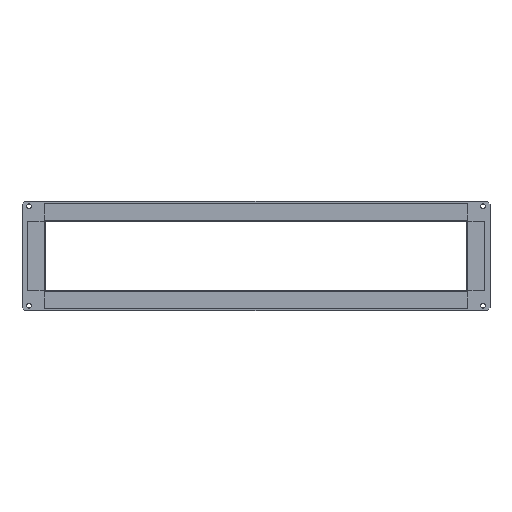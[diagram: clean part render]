
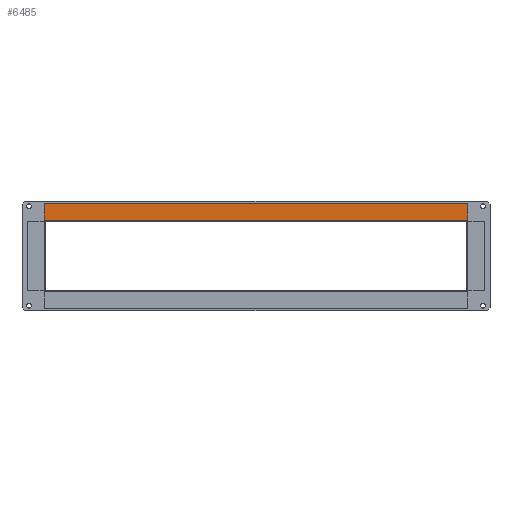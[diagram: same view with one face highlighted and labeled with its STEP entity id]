
A CAD part, top view. The second image highlights one B-rep face of the part: STEP entity #6485.
In plain terms, the highlighted planar face has unit normal (0, 0, 1) as drawn and (0, 0, -1) by its records, which use the part's own axes.
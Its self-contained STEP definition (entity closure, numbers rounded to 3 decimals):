
#106 = CARTESIAN_POINT ( 'NONE',  ( -300.8, 1.8, 0. ) ) ;
#257 = FACE_OUTER_BOUND ( 'NONE', #2905, .T. ) ;
#365 = CARTESIAN_POINT ( 'NONE',  ( 300.8, 1.8, 0. ) ) ;
#562 = ORIENTED_EDGE ( 'NONE', *, *, #1754, .F. ) ;
#619 = DIRECTION ( 'NONE',  ( -1., 0., 0. ) ) ;
#668 = PLANE ( 'NONE',  #6307 ) ;
#706 = CARTESIAN_POINT ( 'NONE',  ( 300.8, 25., 0. ) ) ;
#1055 = EDGE_CURVE ( 'NONE', #4933, #2528, #5324, .T. ) ;
#1172 = DIRECTION ( 'NONE',  ( 0., 0., -1. ) ) ;
#1726 = ORIENTED_EDGE ( 'NONE', *, *, #1055, .T. ) ;
#1754 = EDGE_CURVE ( 'NONE', #4355, #2632, #3636, .T. ) ;
#2023 = CARTESIAN_POINT ( 'NONE',  ( -300.8, 0., 0. ) ) ;
#2528 = VERTEX_POINT ( 'NONE', #106 ) ;
#2542 = DIRECTION ( 'NONE',  ( 0., -1., 0. ) ) ;
#2577 = ORIENTED_EDGE ( 'NONE', *, *, #4478, .F. ) ;
#2632 = VERTEX_POINT ( 'NONE', #6167 ) ;
#2742 = VECTOR ( 'NONE', #2843, 1000. ) ;
#2843 = DIRECTION ( 'NONE',  ( -1., 0., 0. ) ) ;
#2905 = EDGE_LOOP ( 'NONE', ( #2577, #562, #4414, #1726 ) ) ;
#2946 = CARTESIAN_POINT ( 'NONE',  ( 300.8, 0., 0. ) ) ;
#3021 = VECTOR ( 'NONE', #3470, 1000. ) ;
#3193 = LINE ( 'NONE', #2946, #3021 ) ;
#3395 = CARTESIAN_POINT ( 'NONE',  ( 300.8, 1.8, 0. ) ) ;
#3470 = DIRECTION ( 'NONE',  ( 0., -1., 0. ) ) ;
#3636 = LINE ( 'NONE', #706, #6350 ) ;
#3706 = EDGE_CURVE ( 'NONE', #4355, #4933, #3193, .T. ) ;
#4355 = VERTEX_POINT ( 'NONE', #5494 ) ;
#4414 = ORIENTED_EDGE ( 'NONE', *, *, #3706, .T. ) ;
#4478 = EDGE_CURVE ( 'NONE', #2632, #2528, #4810, .T. ) ;
#4774 = DIRECTION ( 'NONE',  ( -1., 0., 0. ) ) ;
#4810 = LINE ( 'NONE', #2023, #4971 ) ;
#4933 = VERTEX_POINT ( 'NONE', #365 ) ;
#4971 = VECTOR ( 'NONE', #2542, 1000. ) ;
#5324 = LINE ( 'NONE', #3395, #2742 ) ;
#5494 = CARTESIAN_POINT ( 'NONE',  ( 300.8, 25., 0. ) ) ;
#6167 = CARTESIAN_POINT ( 'NONE',  ( -300.8, 25., 0. ) ) ;
#6249 = CARTESIAN_POINT ( 'NONE',  ( 300.8, 0., 0. ) ) ;
#6307 = AXIS2_PLACEMENT_3D ( 'NONE', #6249, #1172, #4774 ) ;
#6350 = VECTOR ( 'NONE', #619, 1000. ) ;
#6485 = ADVANCED_FACE ( 'NONE', ( #257 ), #668, .T. ) ;
